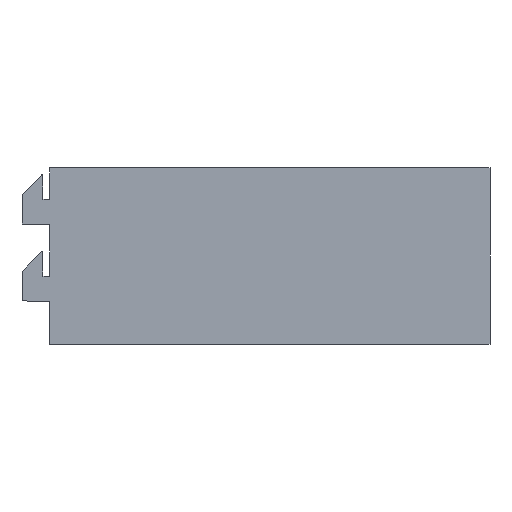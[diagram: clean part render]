
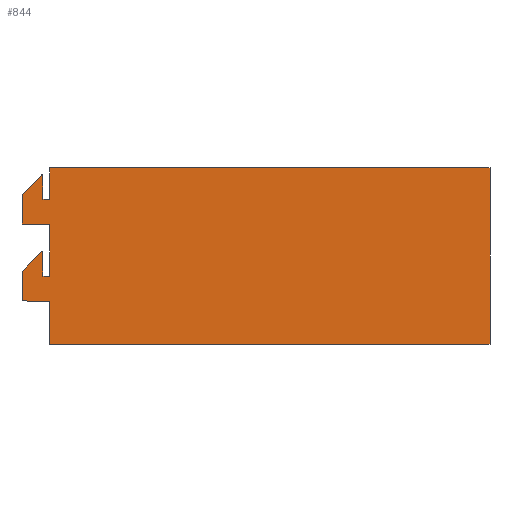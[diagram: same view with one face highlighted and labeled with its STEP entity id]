
A CAD part, left-side view. The second image highlights one B-rep face of the part: STEP entity #844.
In plain terms, the highlighted planar face has unit normal (-1, 0, 0).
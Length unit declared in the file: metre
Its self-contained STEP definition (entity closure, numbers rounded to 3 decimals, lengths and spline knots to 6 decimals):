
#43=PLANE('',#906);
#65=LINE('',#1180,#177);
#69=LINE('',#1189,#181);
#74=LINE('',#1200,#186);
#76=LINE('',#1204,#188);
#79=LINE('',#1210,#191);
#82=LINE('',#1216,#194);
#86=LINE('',#1223,#198);
#87=LINE('',#1225,#199);
#91=LINE('',#1233,#203);
#93=LINE('',#1237,#205);
#96=LINE('',#1242,#208);
#98=LINE('',#1246,#210);
#148=LINE('',#1341,#260);
#150=LINE('',#1346,#262);
#157=LINE('',#1357,#269);
#158=LINE('',#1358,#270);
#159=LINE('',#1359,#271);
#160=LINE('',#1360,#272);
#177=VECTOR('',#960,1.);
#181=VECTOR('',#966,1.);
#186=VECTOR('',#973,1.);
#188=VECTOR('',#977,1.);
#191=VECTOR('',#982,1.);
#194=VECTOR('',#987,1.);
#198=VECTOR('',#993,1.);
#199=VECTOR('',#996,1.);
#203=VECTOR('',#1002,1.);
#205=VECTOR('',#1006,1.);
#208=VECTOR('',#1011,1.);
#210=VECTOR('',#1015,1.);
#260=VECTOR('',#1095,1.);
#262=VECTOR('',#1099,1.);
#269=VECTOR('',#1110,1.);
#270=VECTOR('',#1111,1.);
#271=VECTOR('',#1112,1.);
#272=VECTOR('',#1113,1.);
#461=ORIENTED_EDGE('',*,*,#568,.T.);
#462=ORIENTED_EDGE('',*,*,#521,.F.);
#463=ORIENTED_EDGE('',*,*,#565,.F.);
#464=ORIENTED_EDGE('',*,*,#563,.F.);
#465=ORIENTED_EDGE('',*,*,#541,.F.);
#466=ORIENTED_EDGE('',*,*,#559,.F.);
#467=ORIENTED_EDGE('',*,*,#629,.T.);
#468=ORIENTED_EDGE('',*,*,#548,.T.);
#469=ORIENTED_EDGE('',*,*,#546,.T.);
#470=ORIENTED_EDGE('',*,*,#513,.F.);
#471=ORIENTED_EDGE('',*,*,#551,.F.);
#472=ORIENTED_EDGE('',*,*,#558,.F.);
#473=ORIENTED_EDGE('',*,*,#537,.F.);
#474=ORIENTED_EDGE('',*,*,#554,.F.);
#475=ORIENTED_EDGE('',*,*,#630,.T.);
#476=ORIENTED_EDGE('',*,*,#620,.T.);
#477=ORIENTED_EDGE('',*,*,#631,.F.);
#478=ORIENTED_EDGE('',*,*,#622,.F.);
#479=ORIENTED_EDGE('',*,*,#632,.T.);
#480=ORIENTED_EDGE('',*,*,#570,.T.);
#513=EDGE_CURVE('',#633,#634,#713,.T.);
#521=EDGE_CURVE('',#641,#642,#717,.T.);
#537=EDGE_CURVE('',#657,#658,#65,.T.);
#541=EDGE_CURVE('',#661,#662,#69,.T.);
#546=EDGE_CURVE('',#666,#634,#74,.T.);
#548=EDGE_CURVE('',#667,#666,#76,.T.);
#551=EDGE_CURVE('',#669,#633,#79,.T.);
#554=EDGE_CURVE('',#671,#657,#82,.T.);
#558=EDGE_CURVE('',#658,#669,#86,.T.);
#559=EDGE_CURVE('',#673,#661,#87,.T.);
#563=EDGE_CURVE('',#662,#676,#91,.T.);
#565=EDGE_CURVE('',#676,#641,#93,.T.);
#568=EDGE_CURVE('',#678,#642,#96,.T.);
#570=EDGE_CURVE('',#679,#678,#98,.T.);
#620=EDGE_CURVE('',#705,#708,#148,.T.);
#622=EDGE_CURVE('',#709,#711,#150,.T.);
#629=EDGE_CURVE('',#673,#667,#157,.T.);
#630=EDGE_CURVE('',#671,#705,#158,.T.);
#631=EDGE_CURVE('',#711,#708,#159,.T.);
#632=EDGE_CURVE('',#709,#679,#160,.T.);
#633=VERTEX_POINT('',#1127);
#634=VERTEX_POINT('',#1128);
#641=VERTEX_POINT('',#1145);
#642=VERTEX_POINT('',#1146);
#657=VERTEX_POINT('',#1181);
#658=VERTEX_POINT('',#1182);
#661=VERTEX_POINT('',#1190);
#662=VERTEX_POINT('',#1191);
#666=VERTEX_POINT('',#1201);
#667=VERTEX_POINT('',#1205);
#669=VERTEX_POINT('',#1211);
#671=VERTEX_POINT('',#1217);
#673=VERTEX_POINT('',#1226);
#676=VERTEX_POINT('',#1234);
#678=VERTEX_POINT('',#1243);
#679=VERTEX_POINT('',#1247);
#705=VERTEX_POINT('',#1335);
#708=VERTEX_POINT('',#1340);
#709=VERTEX_POINT('',#1344);
#711=VERTEX_POINT('',#1347);
#713=CIRCLE('',#864,0.000254);
#717=CIRCLE('',#870,0.000254);
#756=EDGE_LOOP('',(#461,#462,#463,#464,#465,#466,#467,#468,#469,#470,#471,
#472,#473,#474,#475,#476,#477,#478,#479,#480));
#798=FACE_BOUND('',#756,.T.);
#844=ADVANCED_FACE('',(#798),#43,.F.);
#864=AXIS2_PLACEMENT_3D('',#1126,#916,#917);
#870=AXIS2_PLACEMENT_3D('',#1144,#932,#933);
#906=AXIS2_PLACEMENT_3D('',#1356,#1108,#1109);
#916=DIRECTION('',(1.,0.,0.));
#917=DIRECTION('',(0.,1.,0.));
#932=DIRECTION('',(1.,0.,0.));
#933=DIRECTION('',(0.,1.,0.));
#960=DIRECTION('',(0.,0.999,0.035));
#966=DIRECTION('',(0.,0.999,0.035));
#973=DIRECTION('',(0.,0.017,1.));
#977=DIRECTION('',(0.,1.,0.));
#982=DIRECTION('',(0.,-0.707,0.707));
#987=DIRECTION('',(0.,1.,0.));
#993=DIRECTION('',(0.,0.,1.));
#996=DIRECTION('',(0.,1.,0.));
#1002=DIRECTION('',(0.,0.,1.));
#1006=DIRECTION('',(0.,-0.707,0.707));
#1011=DIRECTION('',(0.,0.017,1.));
#1015=DIRECTION('',(0.,1.,0.));
#1095=DIRECTION('',(0.,-1.,0.));
#1099=DIRECTION('',(0.,-1.,0.));
#1108=DIRECTION('',(1.,0.,0.));
#1109=DIRECTION('',(0.,1.,0.));
#1110=DIRECTION('',(0.,0.,-1.));
#1111=DIRECTION('',(0.,0.,-1.));
#1112=DIRECTION('',(0.,0.,-1.));
#1113=DIRECTION('',(0.,0.,-1.));
#1126=CARTESIAN_POINT('',(-0.0254,-0.023074,0.000985));
#1127=CARTESIAN_POINT('',(-0.0254,-0.022894,0.001164));
#1128=CARTESIAN_POINT('',(-0.0254,-0.023328,0.000989));
#1144=CARTESIAN_POINT('',(-0.0254,-0.023074,0.023146));
#1145=CARTESIAN_POINT('',(-0.0254,-0.022894,0.023326));
#1146=CARTESIAN_POINT('',(-0.0254,-0.023328,0.023151));
#1180=CARTESIAN_POINT('',(-0.0254,-0.024511,-0.013187));
#1181=CARTESIAN_POINT('',(-0.0254,-0.024511,-0.013187));
#1182=CARTESIAN_POINT('',(-0.0254,-0.017399,-0.012938));
#1189=CARTESIAN_POINT('',(-0.0254,-0.024511,0.008975));
#1190=CARTESIAN_POINT('',(-0.0254,-0.024511,0.008975));
#1191=CARTESIAN_POINT('',(-0.0254,-0.017399,0.009223));
#1200=CARTESIAN_POINT('',(-0.0254,-0.023317,0.001588));
#1201=CARTESIAN_POINT('',(-0.0254,-0.023446,-0.0058));
#1204=CARTESIAN_POINT('',(-0.0254,-0.024359,-0.0058));
#1205=CARTESIAN_POINT('',(-0.0254,-0.0254,-0.0058));
#1210=CARTESIAN_POINT('',(-0.0254,-0.020358,-0.001372));
#1211=CARTESIAN_POINT('',(-0.0254,-0.017399,-0.004331));
#1216=CARTESIAN_POINT('',(-0.0254,-0.0214,-0.013187));
#1217=CARTESIAN_POINT('',(-0.0254,-0.0254,-0.013187));
#1223=CARTESIAN_POINT('',(-0.0254,-0.017399,-0.008759));
#1225=CARTESIAN_POINT('',(-0.0254,-0.024359,0.008975));
#1226=CARTESIAN_POINT('',(-0.0254,-0.0254,0.008975));
#1233=CARTESIAN_POINT('',(-0.0254,-0.017399,0.013403));
#1234=CARTESIAN_POINT('',(-0.0254,-0.017399,0.017831));
#1237=CARTESIAN_POINT('',(-0.0254,-0.020358,0.02079));
#1242=CARTESIAN_POINT('',(-0.0254,-0.023317,0.023749));
#1243=CARTESIAN_POINT('',(-0.0254,-0.023446,0.016362));
#1246=CARTESIAN_POINT('',(-0.0254,-0.024359,0.016362));
#1247=CARTESIAN_POINT('',(-0.0254,-0.0254,0.016362));
#1335=CARTESIAN_POINT('',(-0.0254,-0.0254,-0.0254));
#1340=CARTESIAN_POINT('',(-0.0254,-0.1524,-0.0254));
#1341=CARTESIAN_POINT('',(-0.0254,-0.0889,-0.0254));
#1344=CARTESIAN_POINT('',(-0.0254,-0.0254,0.0254));
#1346=CARTESIAN_POINT('',(-0.0254,-0.0889,0.0254));
#1347=CARTESIAN_POINT('',(-0.0254,-0.1524,0.0254));
#1356=CARTESIAN_POINT('',(-0.0254,-0.0889,0.0254));
#1357=CARTESIAN_POINT('',(-0.0254,-0.0254,0.0254));
#1358=CARTESIAN_POINT('',(-0.0254,-0.0254,0.0254));
#1359=CARTESIAN_POINT('',(-0.0254,-0.1524,0.0254));
#1360=CARTESIAN_POINT('',(-0.0254,-0.0254,0.0254));
